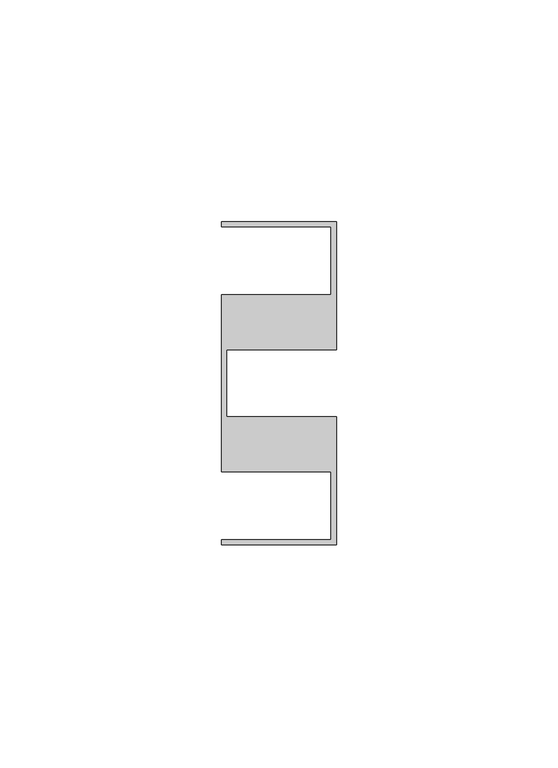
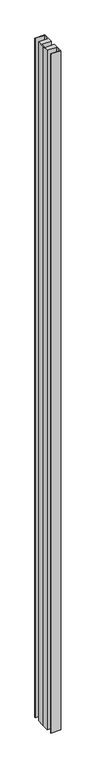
"""IFC4 building model written with IfcOpenShell, lengths in millimetres: member geometry, Прямоугольный импост : 10-AMG-2-Профиль 26Х73 Низ Л."""

from ifc_helpers import new_model, si_unit, frame, origin, place, context, project, spatial, polyline, outline, extrude, source, transform, mapped, element, save


def member_cacbceeb(model_context):
    return source(origin(), model_context, "Body", "SweptSolid", [
        extrude(outline(polyline([(-26.0, 36.5), (0.0, 36.5), (0.0, 7.5116043), (-24.8, 7.5116043), (-24.8, 0.0), (-24.8, -7.5116043), (0.0, -7.5116043), (0.0, -36.5), (-26.0, -36.5), (-26.0, -35.3116043), (-1.2, -35.3116043), (-1.2, -20.0), (-26.0, -20.0), (-26.0, 0.0), (-26.0, 20.0), (-1.2, 20.0), (-1.2, 35.3), (-26.0, 35.3), (-26.0, 36.5)])), frame((0.0, 0.0, -1904.1748553), z_axis=(0.0, 0.0, 1.0), x_axis=(1.0, 0.0, 0.0)), (0.0, 0.0, 1.0), 1904.1748553),
    ])


if __name__ == "__main__":
    model = new_model("IFC4")
    model_context = context("Model", 3, world=origin())
    ifc_project = project(units=[si_unit("LENGTHUNIT", "METRE", prefix="MILLI")], contexts=[model_context])
    site = spatial("IfcSite", under=ifc_project)
    building = spatial("IfcBuilding", under=site)
    placement = place(None, origin())
    member_shape = member_cacbceeb(model_context)
    element("IfcMember", 1, ObjectType="Прямоугольный импост : 10-AMG-2-Профиль 26Х73 Низ Л", at=placement, inside=building, context=model_context, shape_type="MappedRepresentation", body=[
        mapped(member_shape, transform((0.0, 0.0, 0.0), x_axis=(1.0, 0.0, 0.0), y_axis=(0.0, 1.0, 0.0), z_axis=(0.0, 0.0, 1.0))),
    ])
    save(model, "model.ifc")
